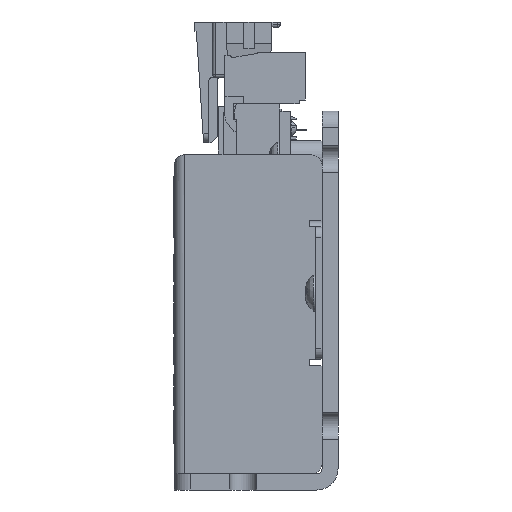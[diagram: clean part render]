
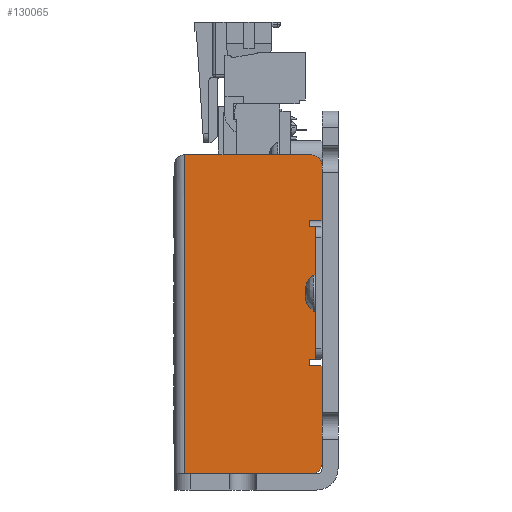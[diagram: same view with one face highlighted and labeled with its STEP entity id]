
A CAD part, left-side view. The second image highlights one B-rep face of the part: STEP entity #130065.
In plain terms, the highlighted planar face has unit normal (-1, 0, 0).
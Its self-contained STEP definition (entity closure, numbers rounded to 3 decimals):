
#664 = ORIENTED_EDGE ( 'NONE', *, *, #73600, .T. ) ;
#1516 = CARTESIAN_POINT ( 'NONE',  ( -56.5, 5., 60.8 ) ) ;
#2705 = CARTESIAN_POINT ( 'NONE',  ( -56.5, 5.4, 24.5 ) ) ;
#4632 = CARTESIAN_POINT ( 'NONE',  ( -56.5, 3.8, 50.5 ) ) ;
#4749 = LINE ( 'NONE', #27166, #106806 ) ;
#5280 = VERTEX_POINT ( 'NONE', #72084 ) ;
#5848 = EDGE_CURVE ( 'NONE', #5280, #152002, #90815, .T. ) ;
#5902 = VERTEX_POINT ( 'NONE', #102966 ) ;
#6085 = EDGE_CURVE ( 'NONE', #129619, #50574, #88693, .T. ) ;
#9513 = VERTEX_POINT ( 'NONE', #36396 ) ;
#9660 = ORIENTED_EDGE ( 'NONE', *, *, #55757, .T. ) ;
#10284 = CARTESIAN_POINT ( 'NONE',  ( -56.5, 3.8, 3. ) ) ;
#10291 = CIRCLE ( 'NONE', #40493, 2. ) ;
#11232 = LINE ( 'NONE', #116826, #61282 ) ;
#14748 = VECTOR ( 'NONE', #139787, 1000. ) ;
#16692 = ORIENTED_EDGE ( 'NONE', *, *, #155976, .T. ) ;
#17136 = VECTOR ( 'NONE', #78707, 1000. ) ;
#20705 = EDGE_CURVE ( 'NONE', #9513, #140810, #109201, .T. ) ;
#23697 = ORIENTED_EDGE ( 'NONE', *, *, #6085, .F. ) ;
#25053 = DIRECTION ( 'NONE',  ( 0., 0., -1. ) ) ;
#27166 = CARTESIAN_POINT ( 'NONE',  ( -56.5, 5.4, 37.95 ) ) ;
#27868 = DIRECTION ( 'NONE',  ( -1., 0., 0. ) ) ;
#29504 = CARTESIAN_POINT ( 'NONE',  ( -56.5, 3., 60.8 ) ) ;
#30768 = CARTESIAN_POINT ( 'NONE',  ( -56.5, 3., 41.8 ) ) ;
#32028 = ORIENTED_EDGE ( 'NONE', *, *, #40406, .T. ) ;
#36396 = CARTESIAN_POINT ( 'NONE',  ( -56.5, 28.7, 62.8 ) ) ;
#37633 = EDGE_LOOP ( 'NONE', ( #62978, #68761, #162149, #163535, #108713, #9660, #32028, #664, #163435, #81619, #55389, #110011, #23697, #16692 ) ) ;
#40406 = EDGE_CURVE ( 'NONE', #88006, #41376, #4749, .T. ) ;
#40493 = AXIS2_PLACEMENT_3D ( 'NONE', #1516, #140123, #25053 ) ;
#41174 = VECTOR ( 'NONE', #87701, 1000. ) ;
#41376 = VERTEX_POINT ( 'NONE', #2705 ) ;
#42665 = DIRECTION ( 'NONE',  ( 0., -1., 0. ) ) ;
#43606 = FACE_OUTER_BOUND ( 'NONE', #37633, .T. ) ;
#44716 = DIRECTION ( 'NONE',  ( 0., 0., -1. ) ) ;
#46163 = EDGE_CURVE ( 'NONE', #9513, #71366, #11232, .T. ) ;
#47860 = CARTESIAN_POINT ( 'NONE',  ( -56.5, 4.2, 41.8 ) ) ;
#48315 = DIRECTION ( 'NONE',  ( 0., -1., 0. ) ) ;
#50144 = EDGE_CURVE ( 'NONE', #55999, #129826, #98094, .T. ) ;
#50447 = DIRECTION ( 'NONE',  ( 0., 0., 1. ) ) ;
#50574 = VERTEX_POINT ( 'NONE', #133237 ) ;
#51137 = LINE ( 'NONE', #130136, #17136 ) ;
#55389 = ORIENTED_EDGE ( 'NONE', *, *, #159988, .T. ) ;
#55481 = LINE ( 'NONE', #88474, #147334 ) ;
#55757 = EDGE_CURVE ( 'NONE', #5280, #88006, #64385, .T. ) ;
#55999 = VERTEX_POINT ( 'NONE', #62863 ) ;
#59042 = CARTESIAN_POINT ( 'NONE',  ( -56.5, 4.2, 49.3 ) ) ;
#60375 = AXIS2_PLACEMENT_3D ( 'NONE', #155810, #27868, #65246 ) ;
#60576 = VERTEX_POINT ( 'NONE', #144731 ) ;
#61282 = VECTOR ( 'NONE', #93287, 1000. ) ;
#62300 = LINE ( 'NONE', #68531, #92359 ) ;
#62863 = CARTESIAN_POINT ( 'NONE',  ( -56.5, 4.2, 24.5 ) ) ;
#62978 = ORIENTED_EDGE ( 'NONE', *, *, #20705, .F. ) ;
#63171 = CARTESIAN_POINT ( 'NONE',  ( -56.5, 5.4, 49.3 ) ) ;
#63623 = CARTESIAN_POINT ( 'NONE',  ( -56.5, 3.8, 62.8 ) ) ;
#64032 = VECTOR ( 'NONE', #139457, 1000. ) ;
#64385 = LINE ( 'NONE', #147763, #154373 ) ;
#64505 = PLANE ( 'NONE',  #74302 ) ;
#65246 = DIRECTION ( 'NONE',  ( 0., 0., -1. ) ) ;
#67329 = CARTESIAN_POINT ( 'NONE',  ( -56.5, 3., 5. ) ) ;
#68531 = CARTESIAN_POINT ( 'NONE',  ( -56.5, 500017.25, 49.3 ) ) ;
#68761 = ORIENTED_EDGE ( 'NONE', *, *, #46163, .T. ) ;
#71366 = VERTEX_POINT ( 'NONE', #95330 ) ;
#72084 = CARTESIAN_POINT ( 'NONE',  ( -56.5, 3., 23.3 ) ) ;
#73600 = EDGE_CURVE ( 'NONE', #41376, #55999, #51137, .T. ) ;
#74302 = AXIS2_PLACEMENT_3D ( 'NONE', #103135, #138264, #112448 ) ;
#76987 = LINE ( 'NONE', #10284, #165071 ) ;
#78707 = DIRECTION ( 'NONE',  ( 0., -1., 0. ) ) ;
#81619 = ORIENTED_EDGE ( 'NONE', *, *, #151464, .F. ) ;
#87701 = DIRECTION ( 'NONE',  ( 0., -1., 0. ) ) ;
#88006 = VERTEX_POINT ( 'NONE', #164022 ) ;
#88233 = CARTESIAN_POINT ( 'NONE',  ( -56.5, 5., 62.8 ) ) ;
#88474 = CARTESIAN_POINT ( 'NONE',  ( -56.5, 5.4, 37.95 ) ) ;
#88693 = LINE ( 'NONE', #30768, #126706 ) ;
#90167 = EDGE_CURVE ( 'NONE', #71366, #60576, #76987, .T. ) ;
#90815 = LINE ( 'NONE', #102411, #14748 ) ;
#92359 = VECTOR ( 'NONE', #106063, 1000. ) ;
#93287 = DIRECTION ( 'NONE',  ( 0., 0., -1. ) ) ;
#95330 = CARTESIAN_POINT ( 'NONE',  ( -56.5, 28.7, 3. ) ) ;
#98094 = LINE ( 'NONE', #47860, #64032 ) ;
#102411 = CARTESIAN_POINT ( 'NONE',  ( -56.5, 3., 41.8 ) ) ;
#102966 = CARTESIAN_POINT ( 'NONE',  ( -56.5, 5.4, 50.5 ) ) ;
#103135 = CARTESIAN_POINT ( 'NONE',  ( -56.5, 3.8, 41.8 ) ) ;
#106063 = DIRECTION ( 'NONE',  ( 0., -1., 0. ) ) ;
#106806 = VECTOR ( 'NONE', #141669, 1000. ) ;
#108713 = ORIENTED_EDGE ( 'NONE', *, *, #5848, .F. ) ;
#109201 = LINE ( 'NONE', #63623, #41174 ) ;
#110011 = ORIENTED_EDGE ( 'NONE', *, *, #164903, .T. ) ;
#111852 = VECTOR ( 'NONE', #42665, 1000. ) ;
#112448 = DIRECTION ( 'NONE',  ( 0., 0., -1. ) ) ;
#116826 = CARTESIAN_POINT ( 'NONE',  ( -56.5, 28.7, 62.8 ) ) ;
#126706 = VECTOR ( 'NONE', #44716, 1000. ) ;
#128808 = VERTEX_POINT ( 'NONE', #63171 ) ;
#129619 = VERTEX_POINT ( 'NONE', #29504 ) ;
#129826 = VERTEX_POINT ( 'NONE', #59042 ) ;
#130065 = ADVANCED_FACE ( 'NONE', ( #43606 ), #64505, .F. ) ;
#130136 = CARTESIAN_POINT ( 'NONE',  ( -56.5, 500017.25, 24.5 ) ) ;
#133237 = CARTESIAN_POINT ( 'NONE',  ( -56.5, 3., 50.5 ) ) ;
#138264 = DIRECTION ( 'NONE',  ( 1., 0., 0. ) ) ;
#139457 = DIRECTION ( 'NONE',  ( 0., 0., 1. ) ) ;
#139787 = DIRECTION ( 'NONE',  ( 0., 0., -1. ) ) ;
#140123 = DIRECTION ( 'NONE',  ( -1., 0., 0. ) ) ;
#140810 = VERTEX_POINT ( 'NONE', #88233 ) ;
#140843 = EDGE_CURVE ( 'NONE', #60576, #152002, #155059, .T. ) ;
#141012 = DIRECTION ( 'NONE',  ( 0., 1., 0. ) ) ;
#141669 = DIRECTION ( 'NONE',  ( 0., 0., 1. ) ) ;
#144731 = CARTESIAN_POINT ( 'NONE',  ( -56.5, 5., 3. ) ) ;
#147334 = VECTOR ( 'NONE', #50447, 1000. ) ;
#147763 = CARTESIAN_POINT ( 'NONE',  ( -56.5, -2.074, 23.3 ) ) ;
#151464 = EDGE_CURVE ( 'NONE', #128808, #129826, #62300, .T. ) ;
#152002 = VERTEX_POINT ( 'NONE', #67329 ) ;
#154373 = VECTOR ( 'NONE', #141012, 1000. ) ;
#155059 = CIRCLE ( 'NONE', #60375, 2. ) ;
#155772 = LINE ( 'NONE', #4632, #111852 ) ;
#155810 = CARTESIAN_POINT ( 'NONE',  ( -56.5, 5., 5. ) ) ;
#155976 = EDGE_CURVE ( 'NONE', #129619, #140810, #10291, .T. ) ;
#159988 = EDGE_CURVE ( 'NONE', #128808, #5902, #55481, .T. ) ;
#162149 = ORIENTED_EDGE ( 'NONE', *, *, #90167, .T. ) ;
#163435 = ORIENTED_EDGE ( 'NONE', *, *, #50144, .T. ) ;
#163535 = ORIENTED_EDGE ( 'NONE', *, *, #140843, .T. ) ;
#164022 = CARTESIAN_POINT ( 'NONE',  ( -56.5, 5.4, 23.3 ) ) ;
#164903 = EDGE_CURVE ( 'NONE', #5902, #50574, #155772, .T. ) ;
#165071 = VECTOR ( 'NONE', #48315, 1000. ) ;
